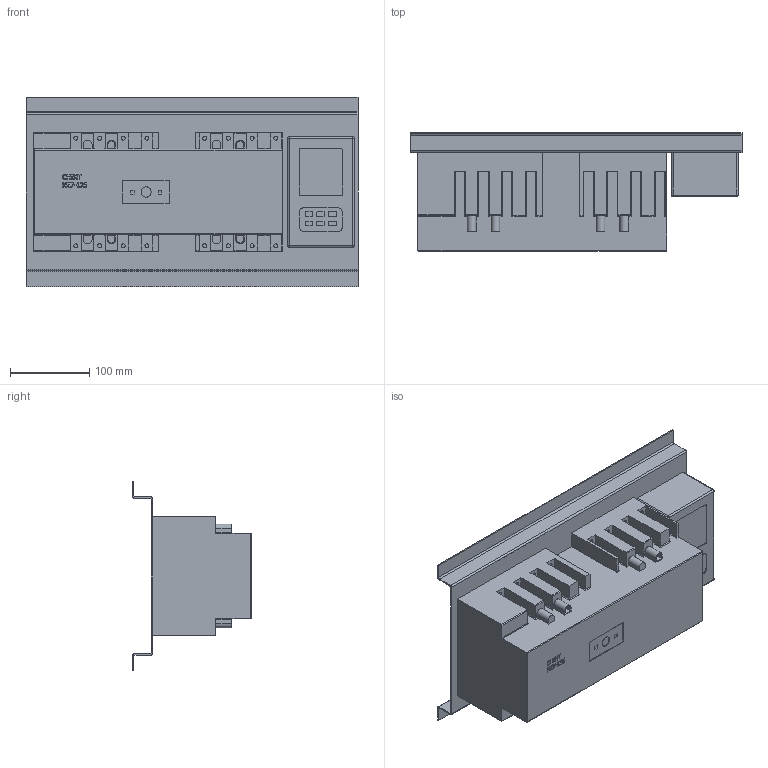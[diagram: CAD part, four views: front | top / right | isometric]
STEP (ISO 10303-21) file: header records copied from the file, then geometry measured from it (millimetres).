
FILE_DESCRIPTION(/* description */ ('','CAx-IF Rec.Pracs.---Representation and Presentation of Product Manufacturing Information (PMI)---3.8---2014-02-18'),/* implementation_level */ '2;1');
FILE_NAME(/* name */ 'C:\Users\ILYA\Desktop\NZ7\NZ7-125(4P)\NZ7-125(4P).stp',/* time_stamp */ '2017-08-15T21:25:04+03:00',/* author */ ('ILYA'),/* organization */ (''),/* preprocessor_version */ 'ST-DEVELOPER v16.1',/* originating_system */ 'Autodesk Inventor 2016',/* authorisation */ '');
FILE_SCHEMA (('AP242_MANAGED_MODEL_BASED_3D_ENGINEERING_MIM_LF { 1 0 10303 442 1 1 4 }'));
Length unit declared in the file: millimetre
Products named in the file (1): NZ7-125(4P)
Bounding box: 420 x 150 x 240 mm (x, y, z)
Volume: 5731384.2 mm3; surface area: 429300 mm2
Topology: 1 solids, 1 shells, 524 faces, 1372 edges, 896 vertices
Faces by surface type: plane 328, cylinder 151, bspline 41, sphere 4
Full cylindrical faces by diameter (mm): 5 x16, 13 x1
Entity records: 16351 total; most frequent: CARTESIAN_POINT 3432, ORIENTED_EDGE 2710, DIRECTION 2507, EDGE_CURVE 1355, LINE 1007, VECTOR 1007, VERTEX_POINT 896, AXIS2_PLACEMENT_3D 750
